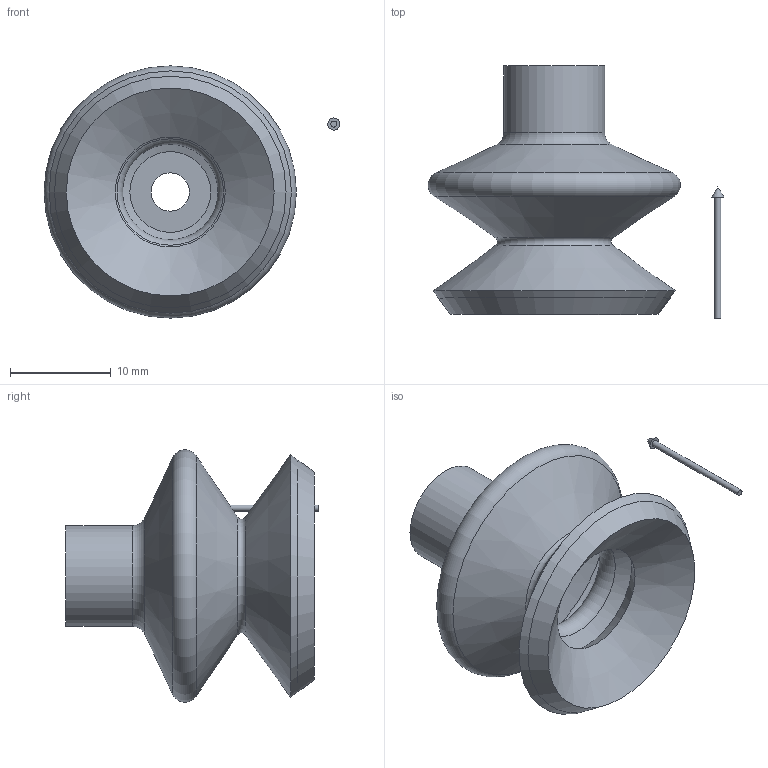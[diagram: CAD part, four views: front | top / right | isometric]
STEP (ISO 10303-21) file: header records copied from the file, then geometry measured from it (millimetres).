
FILE_DESCRIPTION(('STEP AP214'),'1');
FILE_NAME('CA.08.26.D25.AS.stp','2019-04-17T13:01:59',(' '),(' '),'Spatial InterOp 3D',' ',' ');
FILE_SCHEMA(('AUTOMOTIVE_DESIGN { 1 0 10303 214 1 1 1 1 }'));
Length unit declared in the file: millimetre
Products named in the file (4): CA.08.26.D25.AS; FRECCIA.11; 08.26.D25; 08.26.D25.AS
Assembly tree (3 placements, depth 2):
  CA.08.26.D25.AS
    FRECCIA.11
    08.26.D25
    08.26.D25.AS
Bounding box: 29.31 x 25.01 x 25 mm (x, y, z)
Volume: 2623.2 mm3; surface area: 4171.7 mm2
Topology: 3 solids, 3 shells, 24 faces, 48 edges, 28 vertices
Faces by surface type: cone 12, torus 5, plane 4, cylinder 3
Full cylindrical faces by diameter (mm): 0.6 x1, 3.8 x1, 10 x1
Entity records: 763 total; most frequent: DIRECTION 102, CARTESIAN_POINT 75, AXIS2_PLACEMENT_3D 51, EDGE_LOOP 46, ORIENTED_EDGE 46, FACE_OUTER_BOUND 32, STYLED_ITEM 24, PRESENTATION_STYLE_ASSIGNMENT 24
